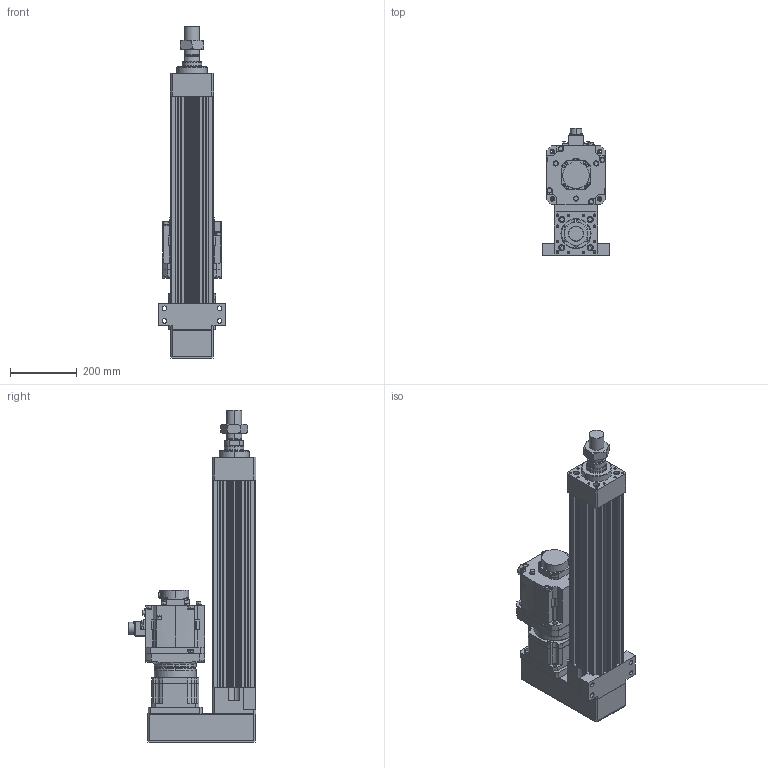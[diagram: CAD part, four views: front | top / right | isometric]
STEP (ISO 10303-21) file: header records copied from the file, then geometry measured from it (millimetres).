
FILE_DESCRIPTION (( 'STEP AP203' ), '1' );
FILE_NAME ('HES130NS(FS)(HS)-P400-W020G00-M-FFC.STEP', '2026-06-10T06:12:20', ( 'tms' ), ( '' ), 'SwSTEP 2.0', 'SolidWorks 2013', '' );
FILE_SCHEMA (( 'CONFIG_CONTROL_DESIGN' ));
Length unit declared in the file: millimetre
Products named in the file (9): HG-SR202B; AB1421; M45X1.5P; HES130-M-ROD-400; HES130-FFC-400; HES130NS(FS)(HS)-P400-W020G00-M-FFC; AB1423; AB1422; HES130-P-G142
Assembly tree (8 placements, depth 2):
  HES130NS(FS)(HS)-P400-W020G00-M-FFC
    HES130-FFC-400
    HES130-M-ROD-400
    M45X1.5P
    HES130-P-G142
    AB1421
    AB1422
    AB1423
    HG-SR202B
Bounding box: 200 x 381.85 x 994 mm (x, y, z)
Volume: 14199768.7 mm3; surface area: 1681005.5 mm2
Topology: 5 solids, 19 shells, 1533 faces, 3980 edges, 2570 vertices
Faces by surface type: cylinder 698, plane 585, cone 168, bspline 76, torus 6
Entity records: 55808 total; most frequent: CARTESIAN_POINT 16861, DIRECTION 8168, ORIENTED_EDGE 7838, EDGE_CURVE 3941, AXIS2_PLACEMENT_3D 3094, VERTEX_POINT 2570, LINE 1980, VECTOR 1980
